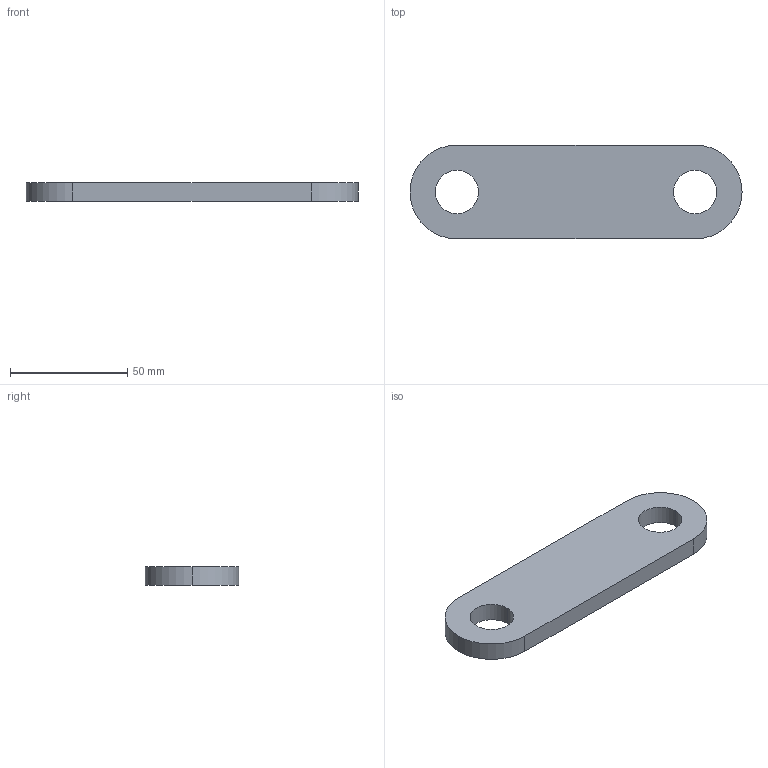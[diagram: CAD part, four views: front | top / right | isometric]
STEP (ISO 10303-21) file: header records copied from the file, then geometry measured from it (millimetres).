
FILE_DESCRIPTION (( 'STEP AP214' ), '1' );
FILE_NAME ('18.5dia side.STEP', '2018-04-22T04:24:44', ( '' ), ( '' ), 'SwSTEP 2.0', 'SolidWorks 2018', '' );
FILE_SCHEMA (( 'AUTOMOTIVE_DESIGN' ));
Length unit declared in the file: millimetre
Products named in the file (1): 18.5dia side
Bounding box: 141.6 x 40 x 8 mm (x, y, z)
Volume: 38264.3 mm3; surface area: 13126.9 mm2
Topology: 1 solids, 1 shells, 11 faces, 27 edges, 18 vertices
Faces by surface type: cylinder 7, plane 4
Entity records: 377 total; most frequent: DIRECTION 65, CARTESIAN_POINT 57, ORIENTED_EDGE 54, EDGE_CURVE 27, AXIS2_PLACEMENT_3D 26, VERTEX_POINT 18, EDGE_LOOP 15, CIRCLE 14
